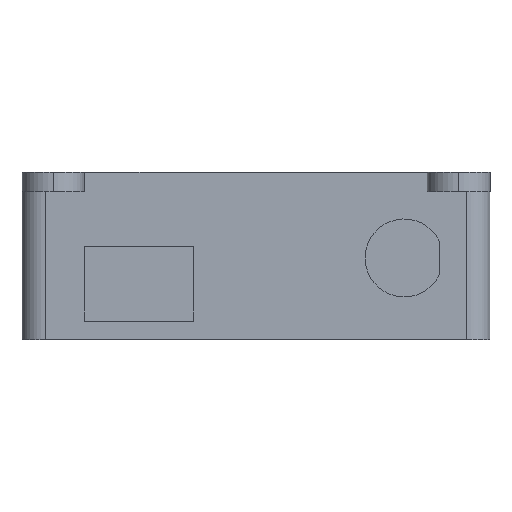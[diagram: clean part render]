
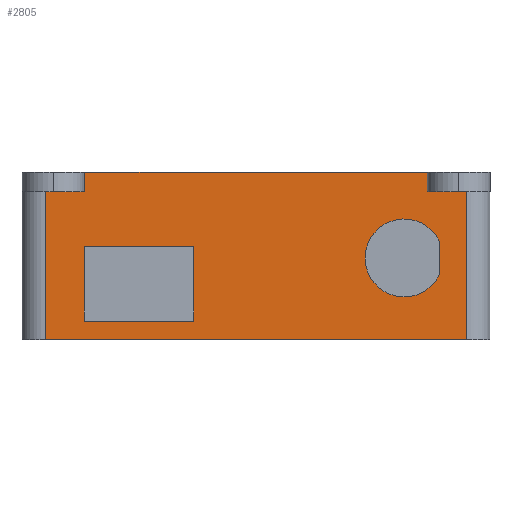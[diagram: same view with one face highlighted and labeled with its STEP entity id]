
A CAD part, left-side view. The second image highlights one B-rep face of the part: STEP entity #2805.
In plain terms, the highlighted planar face has unit normal (-1, 0, 0).
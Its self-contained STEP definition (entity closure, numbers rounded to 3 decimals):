
#37 = VECTOR ( 'NONE', #1124, 1000. ) ;
#40 = LINE ( 'NONE', #2511, #2322 ) ;
#55 = DIRECTION ( 'NONE',  ( 0., 0., 1. ) ) ;
#61 = LINE ( 'NONE', #2106, #2409 ) ;
#72 = ORIENTED_EDGE ( 'NONE', *, *, #1834, .T. ) ;
#108 = ORIENTED_EDGE ( 'NONE', *, *, #156, .T. ) ;
#130 = VERTEX_POINT ( 'NONE', #1956 ) ;
#147 = VERTEX_POINT ( 'NONE', #653 ) ;
#156 = EDGE_CURVE ( 'NONE', #1667, #2432, #434, .T. ) ;
#182 = CARTESIAN_POINT ( 'NONE',  ( -30., 30., 3.5 ) ) ;
#197 = CARTESIAN_POINT ( 'NONE',  ( -30., -8., 19.1 ) ) ;
#201 = CARTESIAN_POINT ( 'NONE',  ( -30., 27., 3.5 ) ) ;
#214 = CARTESIAN_POINT ( 'NONE',  ( -30., 30., 2.5 ) ) ;
#225 = LINE ( 'NONE', #214, #2265 ) ;
#231 = CARTESIAN_POINT ( 'NONE',  ( -30., -27., 3.5 ) ) ;
#259 = VERTEX_POINT ( 'NONE', #840 ) ;
#289 = EDGE_CURVE ( 'NONE', #521, #2154, #61, .T. ) ;
#357 = FACE_BOUND ( 'NONE', #2578, .T. ) ;
#377 = EDGE_CURVE ( 'NONE', #2313, #1043, #713, .T. ) ;
#434 = LINE ( 'NONE', #1787, #37 ) ;
#443 = CARTESIAN_POINT ( 'NONE',  ( -30., 30., 19.1 ) ) ;
#482 = CARTESIAN_POINT ( 'NONE',  ( -30., -22.061, 0. ) ) ;
#521 = VERTEX_POINT ( 'NONE', #1768 ) ;
#530 = DIRECTION ( 'NONE',  ( 0., 0., -1. ) ) ;
#531 = ORIENTED_EDGE ( 'NONE', *, *, #289, .T. ) ;
#557 = CARTESIAN_POINT ( 'NONE',  ( -30., 27., 21.5 ) ) ;
#603 = ORIENTED_EDGE ( 'NONE', *, *, #2474, .T. ) ;
#653 = CARTESIAN_POINT ( 'NONE',  ( -30., -22.061, 2.5 ) ) ;
#713 = LINE ( 'NONE', #1412, #884 ) ;
#719 = VECTOR ( 'NONE', #1872, 1000. ) ;
#773 = EDGE_CURVE ( 'NONE', #1267, #2446, #925, .T. ) ;
#840 = CARTESIAN_POINT ( 'NONE',  ( -30., 23.6, 9.04 ) ) ;
#851 = CARTESIAN_POINT ( 'NONE',  ( -30., 30., 9.5 ) ) ;
#884 = VECTOR ( 'NONE', #2775, 1000. ) ;
#894 = LINE ( 'NONE', #443, #1664 ) ;
#917 = VECTOR ( 'NONE', #55, 1000. ) ;
#925 = LINE ( 'NONE', #1603, #719 ) ;
#934 = VERTEX_POINT ( 'NONE', #2168 ) ;
#976 = CARTESIAN_POINT ( 'NONE',  ( -30., -22., 19.1 ) ) ;
#996 = ORIENTED_EDGE ( 'NONE', *, *, #2177, .T. ) ;
#1002 = EDGE_CURVE ( 'NONE', #2041, #521, #1750, .T. ) ;
#1022 = VECTOR ( 'NONE', #1130, 1000. ) ;
#1043 = VERTEX_POINT ( 'NONE', #1086 ) ;
#1045 = VECTOR ( 'NONE', #530, 1000. ) ;
#1073 = VECTOR ( 'NONE', #1112, 1000. ) ;
#1075 = EDGE_CURVE ( 'NONE', #259, #1937, #2769, .T. ) ;
#1086 = CARTESIAN_POINT ( 'NONE',  ( -30., -22., 9.5 ) ) ;
#1090 = DIRECTION ( 'NONE',  ( 1., 0., 0. ) ) ;
#1104 = CARTESIAN_POINT ( 'NONE',  ( -30., 19., 11. ) ) ;
#1112 = DIRECTION ( 'NONE',  ( 0., 0., -1. ) ) ;
#1124 = DIRECTION ( 'NONE',  ( 0., 0., 1. ) ) ;
#1130 = DIRECTION ( 'NONE',  ( 0., 0., 1. ) ) ;
#1136 = ORIENTED_EDGE ( 'NONE', *, *, #2785, .T. ) ;
#1267 = VERTEX_POINT ( 'NONE', #557 ) ;
#1290 = EDGE_CURVE ( 'NONE', #147, #2154, #1474, .T. ) ;
#1293 = EDGE_LOOP ( 'NONE', ( #996, #72, #2951, #2846, #603, #2376, #531, #2892 ) ) ;
#1299 = VECTOR ( 'NONE', #2664, 1000. ) ;
#1302 = LINE ( 'NONE', #851, #2040 ) ;
#1314 = DIRECTION ( 'NONE',  ( 0., 1., 0. ) ) ;
#1391 = LINE ( 'NONE', #231, #1022 ) ;
#1412 = CARTESIAN_POINT ( 'NONE',  ( -30., -22., 3.5 ) ) ;
#1474 = LINE ( 'NONE', #2113, #1045 ) ;
#1519 = DIRECTION ( 'NONE',  ( 0., 1., 0. ) ) ;
#1525 = ORIENTED_EDGE ( 'NONE', *, *, #1075, .T. ) ;
#1526 = CARTESIAN_POINT ( 'NONE',  ( -30., -8., 9.5 ) ) ;
#1561 = EDGE_LOOP ( 'NONE', ( #108, #2908, #1581, #2523 ) ) ;
#1568 = CARTESIAN_POINT ( 'NONE',  ( -30., -27., 21.5 ) ) ;
#1575 = DIRECTION ( 'NONE',  ( 0., -1., 0. ) ) ;
#1581 = ORIENTED_EDGE ( 'NONE', *, *, #377, .T. ) ;
#1603 = CARTESIAN_POINT ( 'NONE',  ( -30., 30., 21.5 ) ) ;
#1659 = CIRCLE ( 'NONE', #2807, 5. ) ;
#1664 = VECTOR ( 'NONE', #1575, 1000. ) ;
#1667 = VERTEX_POINT ( 'NONE', #1526 ) ;
#1711 = FACE_OUTER_BOUND ( 'NONE', #1293, .T. ) ;
#1750 = LINE ( 'NONE', #2455, #1299 ) ;
#1768 = CARTESIAN_POINT ( 'NONE',  ( -30., 22.002, 0. ) ) ;
#1770 = DIRECTION ( 'NONE',  ( 0., 1., 0. ) ) ;
#1787 = CARTESIAN_POINT ( 'NONE',  ( -30., -8., 3.5 ) ) ;
#1834 = EDGE_CURVE ( 'NONE', #130, #2446, #1391, .T. ) ;
#1842 = CARTESIAN_POINT ( 'NONE',  ( -30., 23.6, -5.551 ) ) ;
#1872 = DIRECTION ( 'NONE',  ( 0., -1., 0. ) ) ;
#1877 = DIRECTION ( 'NONE',  ( 0., -1., 0. ) ) ;
#1924 = EDGE_CURVE ( 'NONE', #1267, #934, #2034, .T. ) ;
#1937 = VERTEX_POINT ( 'NONE', #2512 ) ;
#1944 = AXIS2_PLACEMENT_3D ( 'NONE', #182, #1090, #1314 ) ;
#1956 = CARTESIAN_POINT ( 'NONE',  ( -30., -27., 2.5 ) ) ;
#1985 = DIRECTION ( 'NONE',  ( 1., 0., 0. ) ) ;
#2034 = LINE ( 'NONE', #201, #1073 ) ;
#2040 = VECTOR ( 'NONE', #1519, 1000. ) ;
#2041 = VERTEX_POINT ( 'NONE', #2828 ) ;
#2106 = CARTESIAN_POINT ( 'NONE',  ( -30., 30., 0. ) ) ;
#2113 = CARTESIAN_POINT ( 'NONE',  ( -30., -22.061, 2.5 ) ) ;
#2154 = VERTEX_POINT ( 'NONE', #482 ) ;
#2168 = CARTESIAN_POINT ( 'NONE',  ( -30., 27., 2.5 ) ) ;
#2177 = EDGE_CURVE ( 'NONE', #147, #130, #40, .T. ) ;
#2264 = DIRECTION ( 'NONE',  ( 0., -1., 0. ) ) ;
#2265 = VECTOR ( 'NONE', #2264, 1000. ) ;
#2313 = VERTEX_POINT ( 'NONE', #976 ) ;
#2321 = DIRECTION ( 'NONE',  ( 0., -1., 0. ) ) ;
#2322 = VECTOR ( 'NONE', #2321, 1000. ) ;
#2376 = ORIENTED_EDGE ( 'NONE', *, *, #1002, .T. ) ;
#2409 = VECTOR ( 'NONE', #1877, 1000. ) ;
#2432 = VERTEX_POINT ( 'NONE', #197 ) ;
#2446 = VERTEX_POINT ( 'NONE', #1568 ) ;
#2455 = CARTESIAN_POINT ( 'NONE',  ( -30., 22.002, 2.5 ) ) ;
#2461 = FACE_BOUND ( 'NONE', #1561, .T. ) ;
#2474 = EDGE_CURVE ( 'NONE', #934, #2041, #225, .T. ) ;
#2511 = CARTESIAN_POINT ( 'NONE',  ( -30., -30., 2.5 ) ) ;
#2512 = CARTESIAN_POINT ( 'NONE',  ( -30., 23.6, 12.96 ) ) ;
#2523 = ORIENTED_EDGE ( 'NONE', *, *, #2796, .T. ) ;
#2578 = EDGE_LOOP ( 'NONE', ( #1525, #1136 ) ) ;
#2624 = PLANE ( 'NONE',  #1944 ) ;
#2664 = DIRECTION ( 'NONE',  ( 0., 0., -1. ) ) ;
#2769 = LINE ( 'NONE', #1842, #917 ) ;
#2775 = DIRECTION ( 'NONE',  ( 0., 0., -1. ) ) ;
#2785 = EDGE_CURVE ( 'NONE', #1937, #259, #1659, .T. ) ;
#2796 = EDGE_CURVE ( 'NONE', #1043, #1667, #1302, .T. ) ;
#2805 = ADVANCED_FACE ( 'NONE', ( #357, #1711, #2461 ), #2624, .F. ) ;
#2807 = AXIS2_PLACEMENT_3D ( 'NONE', #1104, #1985, #1770 ) ;
#2828 = CARTESIAN_POINT ( 'NONE',  ( -30., 22.002, 2.5 ) ) ;
#2846 = ORIENTED_EDGE ( 'NONE', *, *, #1924, .T. ) ;
#2892 = ORIENTED_EDGE ( 'NONE', *, *, #1290, .F. ) ;
#2908 = ORIENTED_EDGE ( 'NONE', *, *, #2945, .T. ) ;
#2945 = EDGE_CURVE ( 'NONE', #2432, #2313, #894, .T. ) ;
#2951 = ORIENTED_EDGE ( 'NONE', *, *, #773, .F. ) ;
